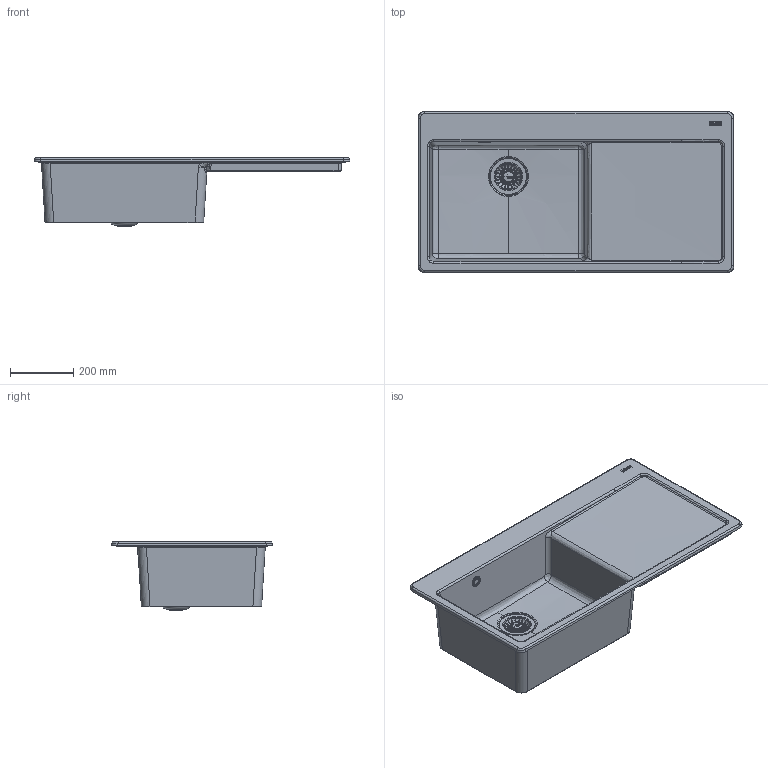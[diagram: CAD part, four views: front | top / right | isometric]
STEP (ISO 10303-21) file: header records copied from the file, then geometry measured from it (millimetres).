
FILE_DESCRIPTION(/* description */ (''),/* implementation_level */ '2;1');
FILE_NAME(/* name */ '3D001_Sinks_MythosX_MYK-611-100-FTL-RHD',/* time_stamp */ '2026-07-08T15:08:29+02:00',/* author */ (''),/* organization */ (''),/* preprocessor_version */ 'ST-DEVELOPER v19.2',/* originating_system */ 'Rhino 8.31',/* authorisation */ '');
FILE_SCHEMA (('CONFIG_CONTROL_DESIGN'));
Length unit declared in the file: millimetre
Products named in the file (1): Document
Bounding box: 1000 x 510 x 217.85 mm (x, y, z)
Surface area: 1776960.4 mm2
Topology: 1 solids, 11 shells, 1742 faces, 4615 edges, 2809 vertices
Faces by surface type: bspline 757, plane 648, cylinder 337
Full cylindrical faces by diameter (mm): 8 x1, 11 x1, 12.6 x1, 13.743 x1, 25 x1, 31 x1, 36 x1, 47 x1, 84 x1
Entity records: 104043 total; most frequent: CARTESIAN_POINT 67029, ORIENTED_EDGE 9037, DIRECTION 5016, EDGE_CURVE 4542, AXIS2_PLACEMENT_3D 3000, VERTEX_POINT 2807, B_SPLINE_CURVE_WITH_KNOTS 2034, CIRCLE 2013
